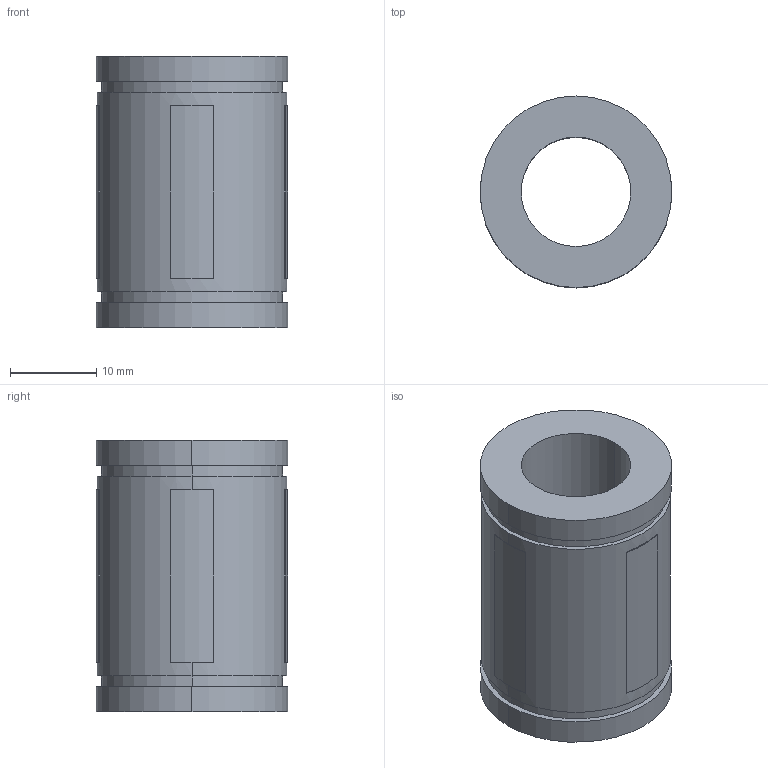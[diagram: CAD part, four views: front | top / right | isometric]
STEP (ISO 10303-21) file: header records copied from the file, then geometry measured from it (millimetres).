
FILE_DESCRIPTION((''),'2;1');
FILE_NAME('C:\Documents and Settings\ｿﾀﾀ蠑ｷ1\ｹﾙﾅﾁ ﾈｭｸ饅\ｺﾎﾇｰﾆﾄﾀﾏ\ﾁｦﾇｰ\LMBS__UU\LMBS8UU.stp','2005-06-15T13:58:27',('ｿﾀﾀ蠑ｷ1'),(''),'Autodesk Inventor 9','Autodesk Inventor 9','');
FILE_SCHEMA(('AUTOMOTIVE_DESIGN { 1 0 10303 214 1 1 1 1 }'));
Length unit declared in the file: millimetre
Products named in the file (1): LMBS__
Bounding box: 22.23 x 22.23 x 31.5 mm (x, y, z)
Volume: 7988.8 mm3; surface area: 4126.2 mm2
Topology: 1 solids, 1 shells, 38 faces, 90 edges, 60 vertices
Faces by surface type: plane 20, cylinder 14, bspline 4
Entity records: 1171 total; most frequent: CARTESIAN_POINT 229, DIRECTION 204, ORIENTED_EDGE 180, EDGE_CURVE 90, AXIS2_PLACEMENT_3D 79, VERTEX_POINT 60, VECTOR 46, LINE 46
